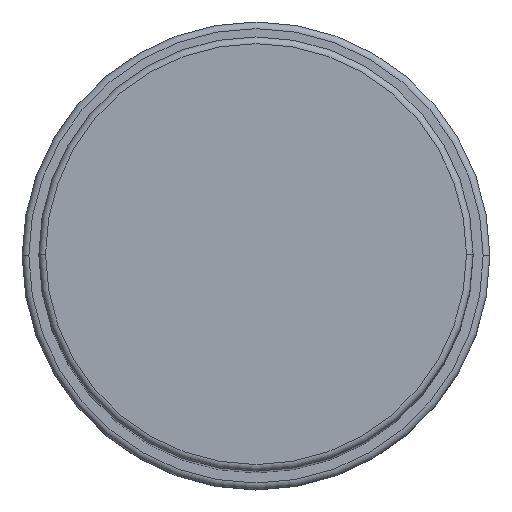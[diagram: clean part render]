
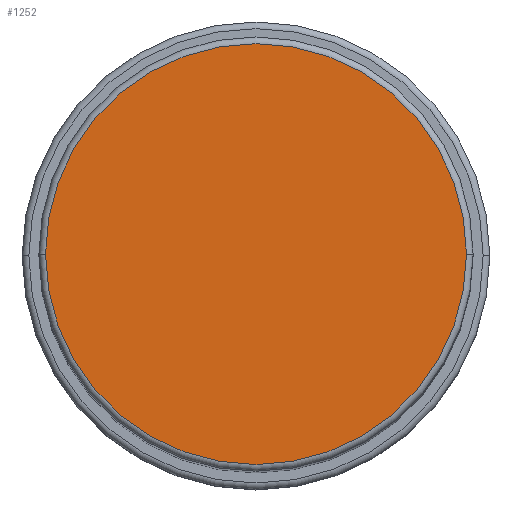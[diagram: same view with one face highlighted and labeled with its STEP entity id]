
A CAD part, top view. The second image highlights one B-rep face of the part: STEP entity #1252.
In plain terms, the highlighted planar face has unit normal (0, 0, 1).
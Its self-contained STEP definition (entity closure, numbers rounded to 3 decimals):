
#57 = AXIS2_PLACEMENT_3D ( 'NONE', #97, #272, #1542 ) ;
#97 = CARTESIAN_POINT ( 'NONE',  ( 0., 0., 163. ) ) ;
#119 = CIRCLE ( 'NONE', #1738, 31.5 ) ;
#202 = EDGE_CURVE ( 'NONE', #688, #1319, #1516, .T. ) ;
#272 = DIRECTION ( 'NONE',  ( 0., 0., 1. ) ) ;
#390 = EDGE_LOOP ( 'NONE', ( #1049, #705 ) ) ;
#638 = DIRECTION ( 'NONE',  ( 1., 0., 0. ) ) ;
#665 = DIRECTION ( 'NONE',  ( 1., 0., 0. ) ) ;
#688 = VERTEX_POINT ( 'NONE', #1631 ) ;
#705 = ORIENTED_EDGE ( 'NONE', *, *, #1197, .T. ) ;
#813 = CARTESIAN_POINT ( 'NONE',  ( 0., 0., 163. ) ) ;
#818 = DIRECTION ( 'NONE',  ( 0., 0., 1. ) ) ;
#827 = PLANE ( 'NONE',  #924 ) ;
#851 = FACE_OUTER_BOUND ( 'NONE', #390, .T. ) ;
#924 = AXIS2_PLACEMENT_3D ( 'NONE', #813, #1546, #638 ) ;
#1049 = ORIENTED_EDGE ( 'NONE', *, *, #202, .T. ) ;
#1197 = EDGE_CURVE ( 'NONE', #1319, #688, #119, .T. ) ;
#1252 = ADVANCED_FACE ( 'NONE', ( #851 ), #827, .T. ) ;
#1319 = VERTEX_POINT ( 'NONE', #1442 ) ;
#1442 = CARTESIAN_POINT ( 'NONE',  ( -31.5, 0., 163. ) ) ;
#1516 = CIRCLE ( 'NONE', #57, 31.5 ) ;
#1542 = DIRECTION ( 'NONE',  ( 1., 0., 0. ) ) ;
#1546 = DIRECTION ( 'NONE',  ( 0., 0., 1. ) ) ;
#1554 = CARTESIAN_POINT ( 'NONE',  ( 0., 0., 163. ) ) ;
#1631 = CARTESIAN_POINT ( 'NONE',  ( 31.5, 0., 163. ) ) ;
#1738 = AXIS2_PLACEMENT_3D ( 'NONE', #1554, #818, #665 ) ;
